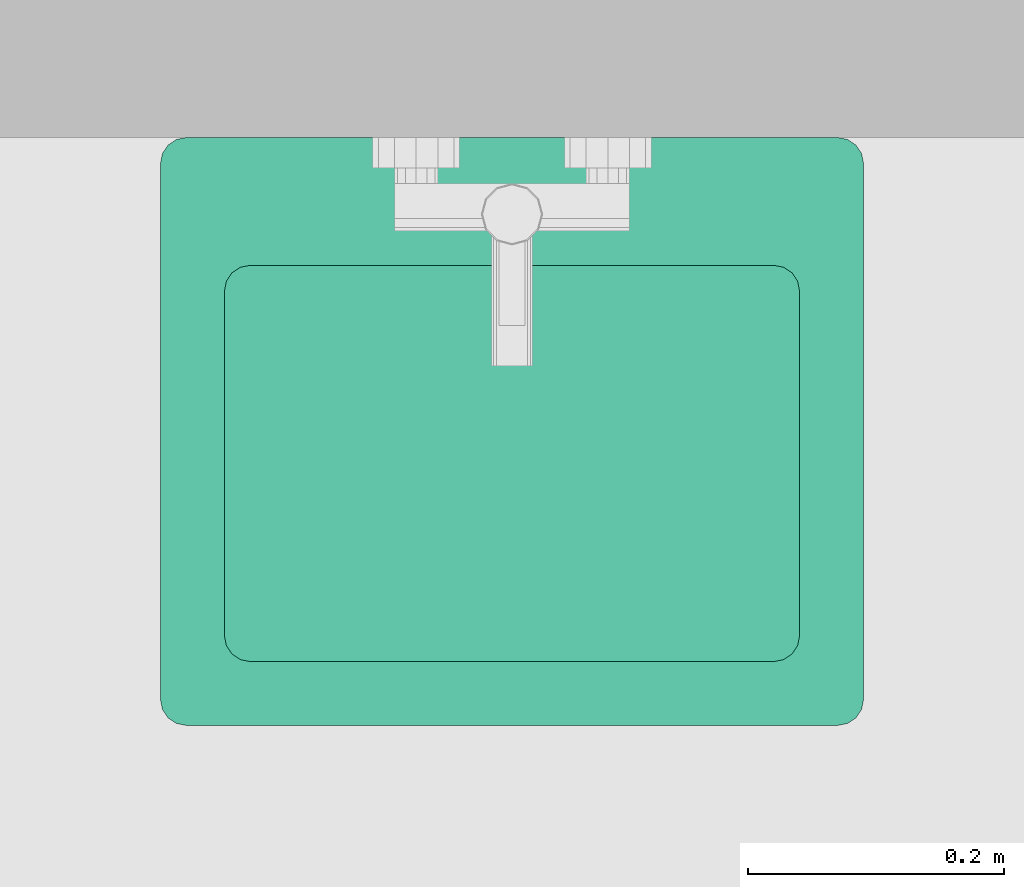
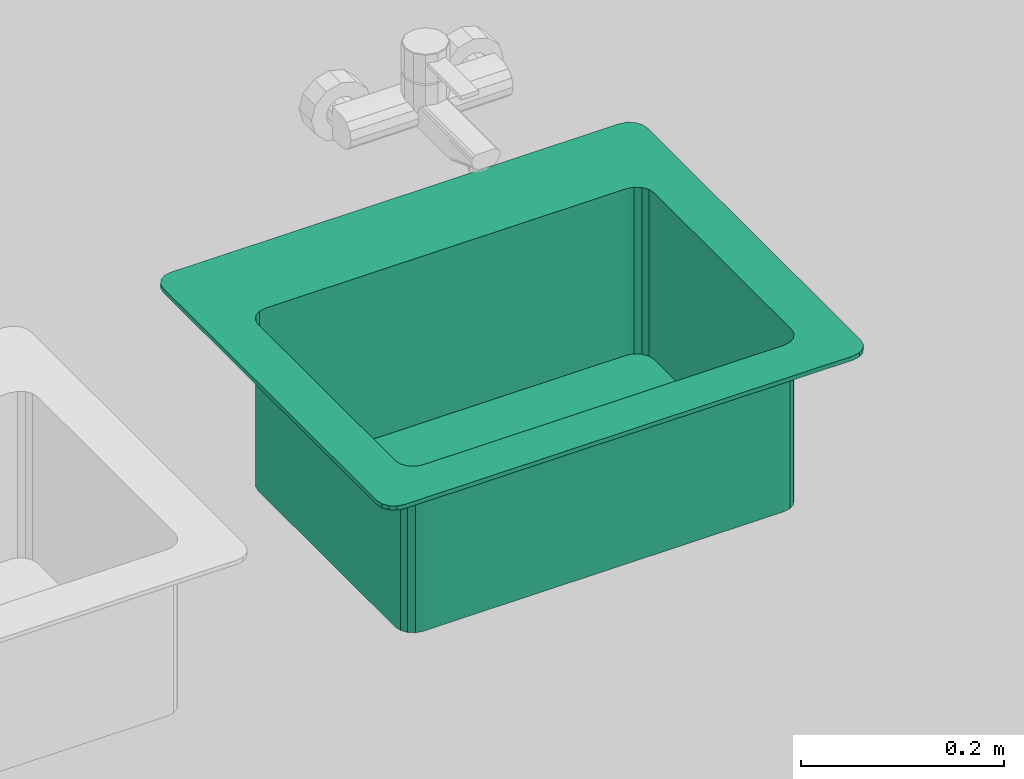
# One storey, part 264 of 301: 1 flow terminal.
"""IFC2X3 building model written with IfcOpenShell, lengths in millimetres."""

from ifc_helpers import new_model, entity, si_unit, converted_unit, derived_unit, money_unit, direction, frame, origin_with_axes, place, context, subcontext, project, spatial, open_shell, faceted_brep, surface_model, source, transform, mapped, type_object, element, save


model = new_model("IFC2X3")

# Units and contexts
model_context = context("Model", 3, precision=0.01, world=origin_with_axes(), true_north=direction((0.0, 1.0)))
body_context = subcontext(model_context, "Body", "Model", "MODEL_VIEW")
ifc_project = project(units=[si_unit("LENGTHUNIT", "METRE", prefix="MILLI"), si_unit("AREAUNIT", "SQUARE_METRE"), si_unit("VOLUMEUNIT", "CUBIC_METRE"), converted_unit("PLANEANGLEUNIT", "DEGREE", entity("IfcPlaneAngleMeasure", 0.0174532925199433), si_unit("PLANEANGLEUNIT", "RADIAN"), dimensions=[0, 0, 0, 0, 0, 0, 0]), money_unit("EUR"), converted_unit("TIMEUNIT", "Year", entity("IfcTimeMeasure", 31557600.0), si_unit("TIMEUNIT", "SECOND"), dimensions=[0, 0, 1, 0, 0, 0, 0]), si_unit("MASSUNIT", "GRAM", prefix="KILO"), si_unit("THERMODYNAMICTEMPERATUREUNIT", "DEGREE_CELSIUS"), si_unit("LUMINOUSINTENSITYUNIT", "LUMEN"), si_unit("ENERGYUNIT", "JOULE", prefix="MEGA"), derived_unit("THERMALCONDUCTANCEUNIT", [(si_unit("POWERUNIT", "WATT"), 1), (si_unit("LENGTHUNIT", "METRE"), -1), (si_unit("THERMODYNAMICTEMPERATUREUNIT", "KELVIN"), -1)]), derived_unit("SPECIFICHEATCAPACITYUNIT", [(si_unit("ENERGYUNIT", "JOULE"), 1), (si_unit("MASSUNIT", "GRAM", prefix="KILO"), -1), (si_unit("THERMODYNAMICTEMPERATUREUNIT", "KELVIN"), -1)]), derived_unit("MASSDENSITYUNIT", [(si_unit("MASSUNIT", "GRAM", prefix="KILO"), 1), (si_unit("VOLUMEUNIT", "CUBIC_METRE"), -1)])], contexts=[model_context])

# Site, building, storey
site_placement = place(None, frame((0.0, 0.0, 8650.0), z_axis=(0.0, 0.0, 1.0), x_axis=(1.0, 0.0, 0.0)))
site = spatial("IfcSite", under=ifc_project, at=site_placement, Name="43301:001:0844", CompositionType="ELEMENT")
building_placement = place(site_placement, origin_with_axes())
building = spatial("IfcBuilding", under=site, at=building_placement, Name="Kuressaare Ametikooli tuulikute mehaanikute õppekorpus", CompositionType="ELEMENT")
storey_placement = place(building_placement, origin_with_axes())
storey = spatial("IfcBuildingStorey", under=building, at=storey_placement, Name="1.korrus", CompositionType="ELEMENT", Elevation=0.0)

# Flow terminal
sanitary_terminal_type = type_object("IfcSanitaryTerminalType", Name="Sink General 27", PredefinedType="NOTDEFINED")
shared_shape = source(origin_with_axes(), body_context, "Body", "SurfaceModel", [
    surface_model("IfcShellBasedSurfaceModel", [(70.0, 50.0, 705.0), (479.9999999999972, 50.0, 705.0), (479.9999999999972, 50.0, 899.9999999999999), (70.0, 50.0, 899.9999999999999), (62.34633135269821, 51.52240934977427, 705.0), (55.85786437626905, 55.85786437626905, 705.0), (51.52240934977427, 62.34633135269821, 705.0), (50.0, 70.0, 705.0), (50.0, 340.0000000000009, 705.0), (51.52240934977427, 347.6536686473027, 705.0), (55.85786437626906, 354.1421356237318, 705.0), (62.34633135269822, 358.4775906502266, 705.0), (70.0, 360.0000000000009, 705.0), (479.9999999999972, 360.0000000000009, 705.0), (487.653668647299, 358.4775906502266, 705.0), (494.1421356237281, 354.1421356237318, 705.0), (498.4775906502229, 347.6536686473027, 705.0), (499.9999999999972, 340.0000000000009, 705.0), (499.9999999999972, 70.0, 705.0), (498.4775906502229, 62.3463313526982, 705.0), (494.1421356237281, 55.85786437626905, 705.0), (487.6536686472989, 51.52240934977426, 705.0), (487.6536686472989, 51.52240934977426, 899.9999999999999), (62.34633135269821, 51.52240934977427, 899.9999999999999), (55.85786437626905, 55.85786437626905, 899.9999999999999), (51.52240934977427, 62.34633135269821, 899.9999999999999), (50.0, 70.0, 899.9999999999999), (50.0, 340.0000000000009, 899.9999999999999), (51.52240934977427, 347.6536686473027, 899.9999999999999), (55.85786437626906, 354.1421356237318, 899.9999999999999), (62.34633135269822, 358.4775906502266, 899.9999999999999), (70.0, 360.0000000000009, 899.9999999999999), (479.9999999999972, 360.0000000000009, 899.9999999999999), (487.653668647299, 358.4775906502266, 899.9999999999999), (494.1421356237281, 354.1421356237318, 899.9999999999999), (498.4775906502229, 347.6536686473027, 899.9999999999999), (499.9999999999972, 340.0000000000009, 899.9999999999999), (499.9999999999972, 70.0, 899.9999999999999), (498.4775906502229, 62.3463313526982, 899.9999999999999), (494.1421356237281, 55.85786437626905, 899.9999999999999)], [open_shell([[[0, 1, 2, 3]], [[0, 4, 5, 6, 7, 8, 9, 10, 11, 12, 13, 14, 15, 16, 17, 18, 19, 20, 21, 1]], [[1, 21, 22, 2]], [[4, 0, 3, 23]], [[5, 4, 23, 24]], [[6, 5, 24, 25]], [[7, 6, 25, 26]], [[8, 7, 26, 27]], [[9, 8, 27, 28]], [[10, 9, 28, 29]], [[11, 10, 29, 30]], [[12, 11, 30, 31]], [[13, 12, 31, 32]], [[14, 13, 32, 33]], [[15, 14, 33, 34]], [[16, 15, 34, 35]], [[17, 16, 35, 36]], [[18, 17, 36, 37]], [[19, 18, 37, 38]], [[20, 19, 38, 39]], [[21, 20, 39, 22]]])]),
    faceted_brep([(20.0, 0.0, 899.9999999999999), (529.9999999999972, 0.0, 899.9999999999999), (529.9999999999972, 0.0, 904.9999999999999), (20.0, 0.0, 904.9999999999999), (12.34633135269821, 1.522409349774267, 899.9999999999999), (5.857864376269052, 5.857864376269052, 899.9999999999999), (1.522409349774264, 12.34633135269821, 899.9999999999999), (0.0, 20.0, 899.9999999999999), (0.0, 440.0000000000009, 899.9999999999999), (1.522409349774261, 447.6536686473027, 899.9999999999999), (5.85786437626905, 454.1421356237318, 899.9999999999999), (12.34633135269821, 458.4775906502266, 899.9999999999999), (20.0, 460.0000000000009, 899.9999999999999), (529.9999999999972, 460.0000000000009, 899.9999999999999), (537.6536686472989, 458.4775906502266, 899.9999999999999), (544.1421356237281, 454.1421356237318, 899.9999999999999), (548.4775906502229, 447.6536686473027, 899.9999999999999), (549.9999999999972, 440.0000000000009, 899.9999999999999), (549.9999999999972, 20.0, 899.9999999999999), (548.4775906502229, 12.3463313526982, 899.9999999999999), (544.142135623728, 5.857864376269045, 899.9999999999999), (537.6536686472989, 1.522409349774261, 899.9999999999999), (70.0, 50.0, 899.9999999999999), (479.9999999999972, 50.0, 899.9999999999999), (487.6536686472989, 51.52240934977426, 899.9999999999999), (494.1421356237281, 55.85786437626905, 899.9999999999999), (498.4775906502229, 62.3463313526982, 899.9999999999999), (499.9999999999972, 70.0, 899.9999999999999), (499.9999999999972, 340.0000000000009, 899.9999999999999), (498.4775906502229, 347.6536686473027, 899.9999999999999), (494.1421356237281, 354.1421356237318, 899.9999999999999), (487.653668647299, 358.4775906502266, 899.9999999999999), (479.9999999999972, 360.0000000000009, 899.9999999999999), (70.0, 360.0000000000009, 899.9999999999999), (62.34633135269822, 358.4775906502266, 899.9999999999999), (55.85786437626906, 354.1421356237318, 899.9999999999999), (51.52240934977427, 347.6536686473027, 899.9999999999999), (50.0, 340.0000000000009, 899.9999999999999), (50.0, 70.0, 899.9999999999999), (51.52240934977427, 62.34633135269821, 899.9999999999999), (55.85786437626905, 55.85786437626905, 899.9999999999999), (62.34633135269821, 51.52240934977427, 899.9999999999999), (537.6536686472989, 1.522409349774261, 904.9999999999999), (544.142135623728, 5.857864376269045, 904.9999999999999), (548.4775906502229, 12.3463313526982, 904.9999999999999), (549.9999999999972, 20.0, 904.9999999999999), (549.9999999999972, 440.0000000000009, 904.9999999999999), (548.4775906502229, 447.6536686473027, 904.9999999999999), (544.1421356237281, 454.1421356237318, 904.9999999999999), (537.6536686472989, 458.4775906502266, 904.9999999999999), (529.9999999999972, 460.0000000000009, 904.9999999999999), (20.0, 460.0000000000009, 904.9999999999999), (12.34633135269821, 458.4775906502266, 904.9999999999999), (5.85786437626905, 454.1421356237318, 904.9999999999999), (1.522409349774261, 447.6536686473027, 904.9999999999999), (0.0, 440.0000000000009, 904.9999999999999), (0.0, 20.0, 904.9999999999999), (1.522409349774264, 12.34633135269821, 904.9999999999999), (5.857864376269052, 5.857864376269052, 904.9999999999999), (12.34633135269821, 1.522409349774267, 904.9999999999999), (70.0, 50.0, 904.9999999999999), (62.34633135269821, 51.52240934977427, 904.9999999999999), (55.85786437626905, 55.85786437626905, 904.9999999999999), (51.52240934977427, 62.34633135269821, 904.9999999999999), (50.0, 70.0, 904.9999999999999), (50.0, 340.0000000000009, 904.9999999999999), (51.52240934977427, 347.6536686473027, 904.9999999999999), (55.85786437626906, 354.1421356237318, 904.9999999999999), (62.34633135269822, 358.4775906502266, 904.9999999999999), (70.0, 360.0000000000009, 904.9999999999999), (479.9999999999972, 360.0000000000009, 904.9999999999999), (487.653668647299, 358.4775906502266, 904.9999999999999), (494.1421356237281, 354.1421356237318, 904.9999999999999), (498.4775906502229, 347.6536686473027, 904.9999999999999), (499.9999999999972, 340.0000000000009, 904.9999999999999), (499.9999999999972, 70.0, 904.9999999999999), (498.4775906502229, 62.3463313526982, 904.9999999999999), (494.1421356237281, 55.85786437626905, 904.9999999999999), (487.6536686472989, 51.52240934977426, 904.9999999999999), (479.9999999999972, 50.0, 904.9999999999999)], [[[0, 1, 2, 3]], [[0, 4, 5, 6, 7, 8, 9, 10, 11, 12, 13, 14, 15, 16, 17, 18, 19, 20, 21, 1], [22, 23, 24, 25, 26, 27, 28, 29, 30, 31, 32, 33, 34, 35, 36, 37, 38, 39, 40, 41]], [[1, 21, 42, 2]], [[3, 2, 42, 43, 44, 45, 46, 47, 48, 49, 50, 51, 52, 53, 54, 55, 56, 57, 58, 59], [60, 61, 62, 63, 64, 65, 66, 67, 68, 69, 70, 71, 72, 73, 74, 75, 76, 77, 78, 79]], [[4, 0, 3, 59]], [[5, 4, 59, 58]], [[6, 5, 58, 57]], [[7, 6, 57, 56]], [[8, 7, 56, 55]], [[9, 8, 55, 54]], [[10, 9, 54, 53]], [[11, 10, 53, 52]], [[12, 11, 52, 51]], [[13, 12, 51, 50]], [[14, 13, 50, 49]], [[15, 14, 49, 48]], [[16, 15, 48, 47]], [[17, 16, 47, 46]], [[18, 17, 46, 45]], [[19, 18, 45, 44]], [[20, 19, 44, 43]], [[21, 20, 43, 42]], [[23, 22, 60, 79]], [[24, 23, 79, 78]], [[25, 24, 78, 77]], [[26, 25, 77, 76]], [[27, 26, 76, 75]], [[28, 27, 75, 74]], [[29, 28, 74, 73]], [[30, 29, 73, 72]], [[31, 30, 72, 71]], [[32, 31, 71, 70]], [[33, 32, 70, 69]], [[34, 33, 69, 68]], [[35, 34, 68, 67]], [[36, 35, 67, 66]], [[37, 36, 66, 65]], [[38, 37, 65, 64]], [[39, 38, 64, 63]], [[40, 39, 63, 62]], [[41, 40, 62, 61]], [[22, 41, 61, 60]]]),
])
flow_terminal_placement = place(storey_placement, frame((126665.2609667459, 19424.46984143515, 0.0), z_axis=(0.0, 0.0, 1.0), x_axis=(1.0, 0.0, 0.0)))
element("IfcFlowTerminal", 1, at=flow_terminal_placement, inside=storey, type_object=sanitary_terminal_type, Name="V3", context=body_context, shape_type="MappedRepresentation", body=[
    mapped(shared_shape, transform((0.0, 0.0, 0.0))),
])

save(model, "model.ifc")
